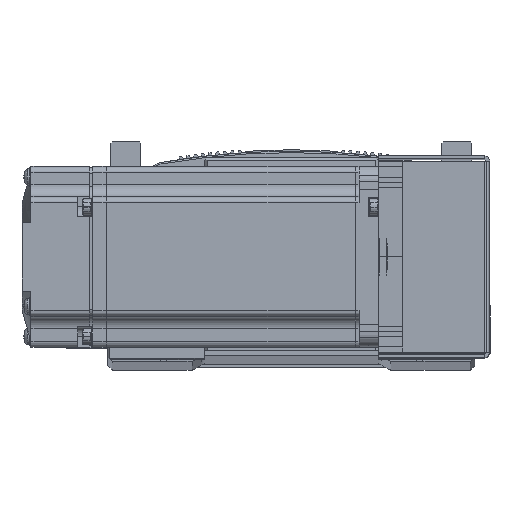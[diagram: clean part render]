
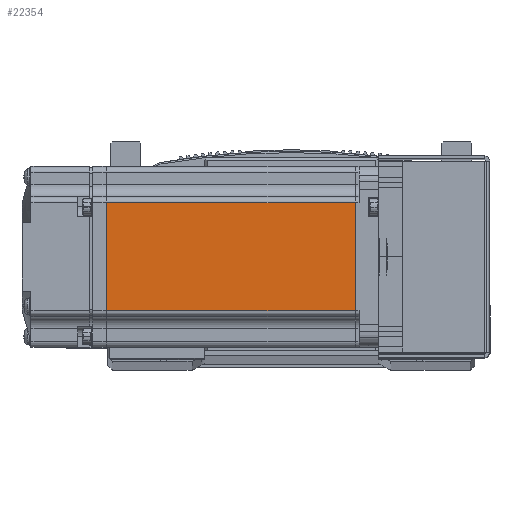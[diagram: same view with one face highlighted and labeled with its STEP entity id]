
A CAD part, top view. The second image highlights one B-rep face of the part: STEP entity #22354.
In plain terms, the highlighted planar face has unit normal (0, 0, 1) as drawn and (0, 1, 0) by its records, which use the part's own axes.
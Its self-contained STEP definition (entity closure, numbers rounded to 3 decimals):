
#544 = VERTEX_POINT ( 'NONE', #89992 ) ;
#620 = VERTEX_POINT ( 'NONE', #88312 ) ;
#670 = VERTEX_POINT ( 'NONE', #88929 ) ;
#679 = VERTEX_POINT ( 'NONE', #89009 ) ;
#8486 = ORIENTED_EDGE ( 'NONE', *, *, #75732, .F. ) ;
#8508 = ORIENTED_EDGE ( 'NONE', *, *, #75716, .T. ) ;
#8559 = ORIENTED_EDGE ( 'NONE', *, *, #75737, .T. ) ;
#8600 = ORIENTED_EDGE ( 'NONE', *, *, #71607, .T. ) ;
#15641 = DIRECTION ( 'NONE',  ( 0., 0., 1. ) ) ;
#15671 = CARTESIAN_POINT ( 'NONE',  ( -90.45, 30., 0. ) ) ;
#15689 = DIRECTION ( 'NONE',  ( 0., 0., 1. ) ) ;
#15715 = CARTESIAN_POINT ( 'NONE',  ( -6.5, 30., -18. ) ) ;
#15747 = CARTESIAN_POINT ( 'NONE',  ( -7.75, 30., 0. ) ) ;
#15748 = DIRECTION ( 'NONE',  ( -1., 0., 0. ) ) ;
#17170 = LINE ( 'NONE', #20148, #17214 ) ;
#17214 = VECTOR ( 'NONE', #20183, 1000. ) ;
#20148 = CARTESIAN_POINT ( 'NONE',  ( -6.5, 30., 18. ) ) ;
#20183 = DIRECTION ( 'NONE',  ( 1., 0., 0. ) ) ;
#22354 = ADVANCED_FACE ( 'NONE', ( #41844 ), #66750, .T. ) ;
#27541 = LINE ( 'NONE', #15671, #27563 ) ;
#27563 = VECTOR ( 'NONE', #15641, 1000. ) ;
#27601 = LINE ( 'NONE', #15715, #27639 ) ;
#27615 = LINE ( 'NONE', #15747, #27651 ) ;
#27639 = VECTOR ( 'NONE', #15748, 1000. ) ;
#27651 = VECTOR ( 'NONE', #15689, 1000. ) ;
#37089 = AXIS2_PLACEMENT_3D ( 'NONE', #66790, #66799, #66773 ) ;
#41844 = FACE_OUTER_BOUND ( 'NONE', #58360, .T. ) ;
#58360 = EDGE_LOOP ( 'NONE', ( #8486, #8559, #8508, #8600 ) ) ;
#66750 = PLANE ( 'NONE',  #37089 ) ;
#66773 = DIRECTION ( 'NONE',  ( 0., 0., 1. ) ) ;
#66790 = CARTESIAN_POINT ( 'NONE',  ( -6.5, 30., 25. ) ) ;
#66799 = DIRECTION ( 'NONE',  ( 0., 1., 0. ) ) ;
#71607 = EDGE_CURVE ( 'NONE', #679, #544, #17170, .T. ) ;
#75716 = EDGE_CURVE ( 'NONE', #620, #679, #27541, .T. ) ;
#75732 = EDGE_CURVE ( 'NONE', #670, #544, #27615, .T. ) ;
#75737 = EDGE_CURVE ( 'NONE', #670, #620, #27601, .T. ) ;
#88312 = CARTESIAN_POINT ( 'NONE',  ( -90.45, 30., -18. ) ) ;
#88929 = CARTESIAN_POINT ( 'NONE',  ( -7.75, 30., -18. ) ) ;
#89009 = CARTESIAN_POINT ( 'NONE',  ( -90.45, 30., 18. ) ) ;
#89992 = CARTESIAN_POINT ( 'NONE',  ( -7.75, 30., 18. ) ) ;
